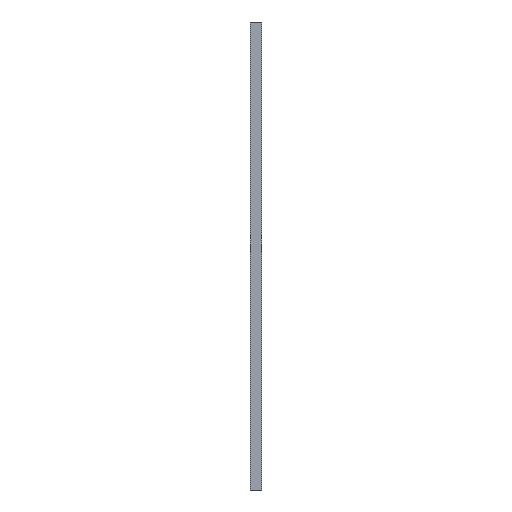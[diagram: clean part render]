
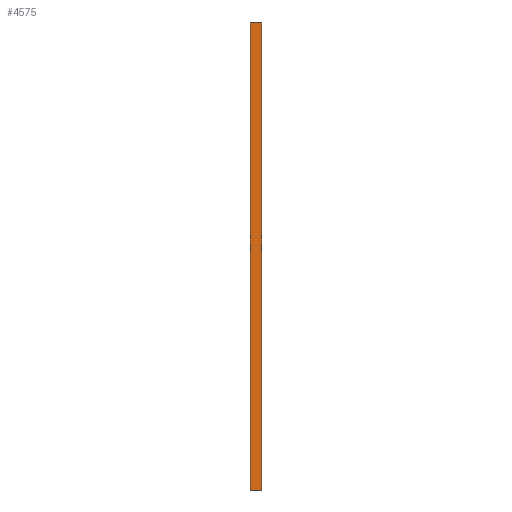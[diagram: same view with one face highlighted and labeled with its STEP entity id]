
A CAD part, left-side view. The second image highlights one B-rep face of the part: STEP entity #4575.
In plain terms, the highlighted planar face has unit normal (-1, 0, 0).
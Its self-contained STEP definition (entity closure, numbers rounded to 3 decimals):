
#538 = VECTOR ( 'NONE', #2137, 1000. ) ;
#539 = EDGE_CURVE ( 'NONE', #5238, #8428, #9229, .T. ) ;
#544 = FACE_OUTER_BOUND ( 'NONE', #1853, .T. ) ;
#648 = ORIENTED_EDGE ( 'NONE', *, *, #539, .T. ) ;
#1239 = ORIENTED_EDGE ( 'NONE', *, *, #4571, .F. ) ;
#1853 = EDGE_LOOP ( 'NONE', ( #5717, #2849, #1239, #648 ) ) ;
#2130 = DIRECTION ( 'NONE',  ( 0., 0., -1. ) ) ;
#2137 = DIRECTION ( 'NONE',  ( 0., 0., -1. ) ) ;
#2272 = EDGE_CURVE ( 'NONE', #8428, #9144, #8393, .T. ) ;
#2849 = ORIENTED_EDGE ( 'NONE', *, *, #3452, .F. ) ;
#3361 = VERTEX_POINT ( 'NONE', #8600 ) ;
#3372 = CARTESIAN_POINT ( 'NONE',  ( 0., 74., -1500. ) ) ;
#3452 = EDGE_CURVE ( 'NONE', #3361, #9144, #5319, .T. ) ;
#3545 = LINE ( 'NONE', #8257, #9662 ) ;
#4489 = CARTESIAN_POINT ( 'NONE',  ( 0., 0., -1500. ) ) ;
#4571 = EDGE_CURVE ( 'NONE', #5238, #3361, #3545, .T. ) ;
#4575 = ADVANCED_FACE ( 'NONE', ( #544 ), #5168, .F. ) ;
#5168 = PLANE ( 'NONE',  #5916 ) ;
#5238 = VERTEX_POINT ( 'NONE', #5444 ) ;
#5319 = LINE ( 'NONE', #8405, #9158 ) ;
#5444 = CARTESIAN_POINT ( 'NONE',  ( 0., 74., 1500. ) ) ;
#5456 = VECTOR ( 'NONE', #7588, 1000. ) ;
#5717 = ORIENTED_EDGE ( 'NONE', *, *, #2272, .T. ) ;
#5873 = DIRECTION ( 'NONE',  ( 1., 0., 0. ) ) ;
#5916 = AXIS2_PLACEMENT_3D ( 'NONE', #6640, #5873, #2130 ) ;
#6640 = CARTESIAN_POINT ( 'NONE',  ( 0., 0., 1500. ) ) ;
#6752 = CARTESIAN_POINT ( 'NONE',  ( 0., 0., -1500. ) ) ;
#6877 = DIRECTION ( 'NONE',  ( 0., 0., -1. ) ) ;
#7588 = DIRECTION ( 'NONE',  ( 0., -1., 0. ) ) ;
#8257 = CARTESIAN_POINT ( 'NONE',  ( 0., 0., 1500. ) ) ;
#8393 = LINE ( 'NONE', #4489, #5456 ) ;
#8405 = CARTESIAN_POINT ( 'NONE',  ( 0., 0., 1500. ) ) ;
#8428 = VERTEX_POINT ( 'NONE', #3372 ) ;
#8600 = CARTESIAN_POINT ( 'NONE',  ( 0., 0., 1500. ) ) ;
#8966 = DIRECTION ( 'NONE',  ( 0., -1., 0. ) ) ;
#9144 = VERTEX_POINT ( 'NONE', #6752 ) ;
#9158 = VECTOR ( 'NONE', #6877, 1000. ) ;
#9229 = LINE ( 'NONE', #9997, #538 ) ;
#9662 = VECTOR ( 'NONE', #8966, 1000. ) ;
#9997 = CARTESIAN_POINT ( 'NONE',  ( 0., 74., 1500. ) ) ;
